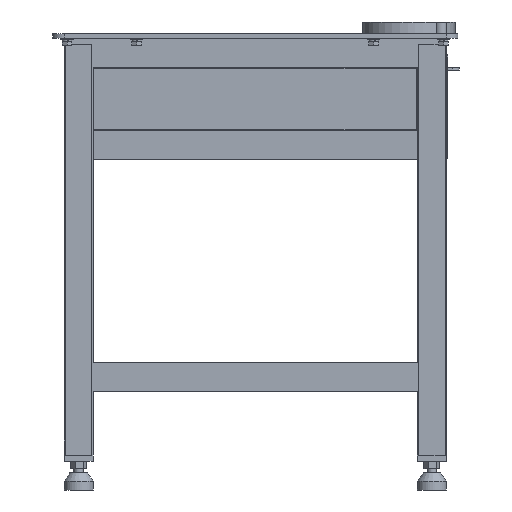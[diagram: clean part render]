
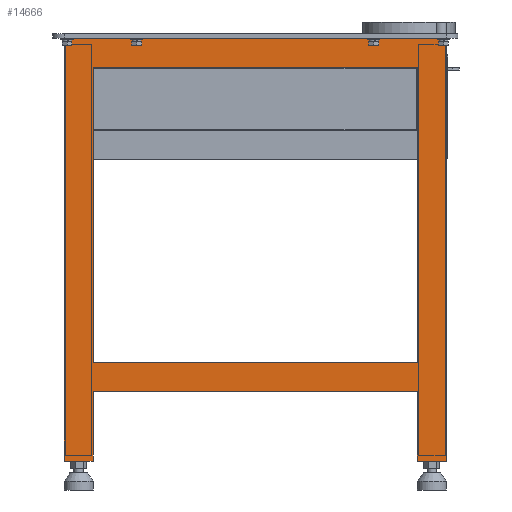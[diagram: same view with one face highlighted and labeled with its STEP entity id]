
A CAD part, left-side view. The second image highlights one B-rep face of the part: STEP entity #14666.
In plain terms, the highlighted planar face has unit normal (-1, 0, 0).
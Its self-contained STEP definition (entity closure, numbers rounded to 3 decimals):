
#1278=ORIENTED_EDGE('',*,*,#5027,.F.);
#1279=ORIENTED_EDGE('',*,*,#5028,.F.);
#1280=ORIENTED_EDGE('',*,*,#5010,.F.);
#1281=ORIENTED_EDGE('',*,*,#5024,.T.);
#1282=ORIENTED_EDGE('',*,*,#5029,.T.);
#1283=ORIENTED_EDGE('',*,*,#4988,.F.);
#1284=ORIENTED_EDGE('',*,*,#5030,.F.);
#1285=ORIENTED_EDGE('',*,*,#5031,.T.);
#1286=ORIENTED_EDGE('',*,*,#4950,.F.);
#1287=ORIENTED_EDGE('',*,*,#5032,.T.);
#1288=ORIENTED_EDGE('',*,*,#5033,.T.);
#1289=ORIENTED_EDGE('',*,*,#4973,.F.);
#4950=EDGE_CURVE('',#6849,#6850,#8098,.T.);
#4973=EDGE_CURVE('',#6850,#6861,#8121,.T.);
#4988=EDGE_CURVE('',#6871,#6872,#8136,.T.);
#5010=EDGE_CURVE('',#6887,#6888,#8154,.T.);
#5024=EDGE_CURVE('',#6887,#6900,#8168,.T.);
#5027=EDGE_CURVE('',#6901,#6902,#8171,.T.);
#5028=EDGE_CURVE('',#6888,#6901,#8172,.T.);
#5029=EDGE_CURVE('',#6900,#6872,#8173,.T.);
#5030=EDGE_CURVE('',#6903,#6871,#8174,.T.);
#5031=EDGE_CURVE('',#6903,#6902,#8175,.T.);
#5032=EDGE_CURVE('',#6849,#6904,#8176,.T.);
#5033=EDGE_CURVE('',#6904,#6861,#8177,.T.);
#6849=VERTEX_POINT('',#20916);
#6850=VERTEX_POINT('',#20918);
#6861=VERTEX_POINT('',#20957);
#6871=VERTEX_POINT('',#20983);
#6872=VERTEX_POINT('',#20984);
#6887=VERTEX_POINT('',#21023);
#6888=VERTEX_POINT('',#21025);
#6900=VERTEX_POINT('',#21051);
#6901=VERTEX_POINT('',#21057);
#6902=VERTEX_POINT('',#21058);
#6903=VERTEX_POINT('',#21062);
#6904=VERTEX_POINT('',#21065);
#8098=LINE('',#20917,#9562);
#8121=LINE('',#20956,#9585);
#8136=LINE('',#20982,#9600);
#8154=LINE('',#21024,#9618);
#8168=LINE('',#21052,#9632);
#8171=LINE('',#21056,#9635);
#8172=LINE('',#21059,#9636);
#8173=LINE('',#21060,#9637);
#8174=LINE('',#21061,#9638);
#8175=LINE('',#21063,#9639);
#8176=LINE('',#21064,#9640);
#8177=LINE('',#21066,#9641);
#9562=VECTOR('',#16915,1000.);
#9585=VECTOR('',#16948,1000.);
#9600=VECTOR('',#16965,1000.);
#9618=VECTOR('',#16997,1000.);
#9632=VECTOR('',#17013,1000.);
#9635=VECTOR('',#17018,1000.);
#9636=VECTOR('',#17019,1000.);
#9637=VECTOR('',#17020,1000.);
#9638=VECTOR('',#17021,1000.);
#9639=VECTOR('',#17022,1000.);
#9640=VECTOR('',#17023,1000.);
#9641=VECTOR('',#17024,1000.);
#10948=EDGE_LOOP('',(#1278,#1279,#1280,#1281,#1282,#1283,#1284,#1285));
#10949=EDGE_LOOP('',(#1286,#1287,#1288,#1289));
#11874=FACE_BOUND('',#10948,.T.);
#11875=FACE_BOUND('',#10949,.T.);
#12766=PLANE('',#15530);
#14666=ADVANCED_FACE('',(#11874,#11875),#12766,.F.);
#15530=AXIS2_PLACEMENT_3D('',#21055,#17016,#17017);
#16915=DIRECTION('',(0.,1.,0.));
#16948=DIRECTION('',(0.,0.,-1.));
#16965=DIRECTION('',(0.,0.,-1.));
#16997=DIRECTION('',(0.,-1.,0.));
#17013=DIRECTION('',(0.,0.,-1.));
#17016=DIRECTION('',(1.,0.,0.));
#17017=DIRECTION('',(0.,0.,-1.));
#17018=DIRECTION('',(0.,1.,0.));
#17019=DIRECTION('',(0.,0.,-1.));
#17020=DIRECTION('',(0.,-1.,0.));
#17021=DIRECTION('',(0.,1.,0.));
#17022=DIRECTION('',(0.,0.,-1.));
#17023=DIRECTION('',(0.,0.,-1.));
#17024=DIRECTION('',(0.,1.,0.));
#20916=CARTESIAN_POINT('',(-510.,-280.,680.));
#20917=CARTESIAN_POINT('',(-510.,-282.,680.));
#20918=CARTESIAN_POINT('',(-510.,280.,680.));
#20956=CARTESIAN_POINT('',(-510.,280.,730.));
#20957=CARTESIAN_POINT('',(-510.,280.,170.));
#20982=CARTESIAN_POINT('',(-510.,280.,730.));
#20983=CARTESIAN_POINT('',(-510.,280.,120.));
#20984=CARTESIAN_POINT('',(-510.,280.,0.));
#21023=CARTESIAN_POINT('',(-510.,330.,730.));
#21024=CARTESIAN_POINT('',(-510.,330.,730.));
#21025=CARTESIAN_POINT('',(-510.,-330.,730.));
#21051=CARTESIAN_POINT('',(-510.,330.,0.));
#21052=CARTESIAN_POINT('',(-510.,330.,730.));
#21055=CARTESIAN_POINT('',(-510.,330.,730.));
#21056=CARTESIAN_POINT('',(-510.,-330.,0.));
#21057=CARTESIAN_POINT('',(-510.,-330.,0.));
#21058=CARTESIAN_POINT('',(-510.,-280.,0.));
#21059=CARTESIAN_POINT('',(-510.,-330.,730.));
#21060=CARTESIAN_POINT('',(-510.,330.,0.));
#21061=CARTESIAN_POINT('',(-510.,-282.,120.));
#21062=CARTESIAN_POINT('',(-510.,-280.,120.));
#21063=CARTESIAN_POINT('',(-510.,-280.,730.));
#21064=CARTESIAN_POINT('',(-510.,-280.,730.));
#21065=CARTESIAN_POINT('',(-510.,-280.,170.));
#21066=CARTESIAN_POINT('',(-510.,-282.,170.));
